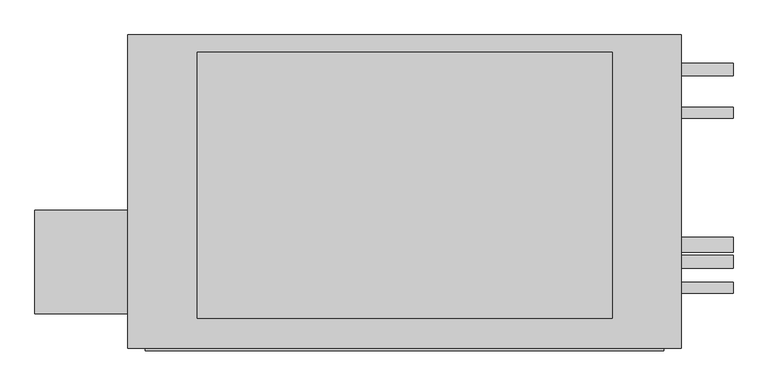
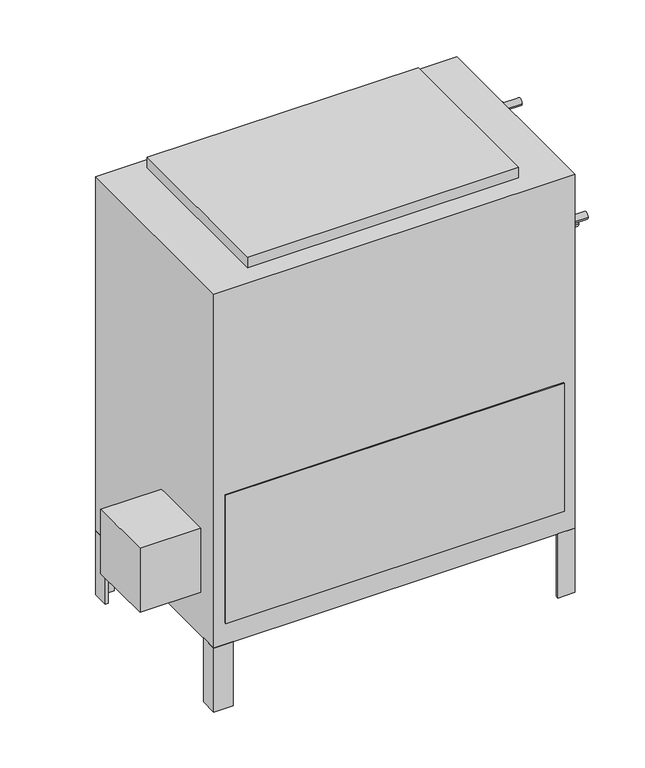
"""IFC4 building model written with IfcOpenShell, lengths in millimetres: proxy geometry, Concealed_High_Capacity_Vertical_Fan_Coil_Unit_-_42DDA_-_CARRIER_-_4-Pipe_RH_2022 : Size 10 - 277v/60Hz/1Ph - 4/2 Coil."""

from ifc_helpers import new_model, si_unit, point, frame, frame_2d, origin, origin_with_axes, place, context, project, spatial, polyline, circle_curve, trimmed, segment, composite_curve, outline, extrude, source, transform, mapped, element, save


def mechanical_equipment_e4368f68(model_context):
    return source(origin(), model_context, "Body", "SweptSolid", [
        extrude(outline(polyline([(-390.525, -417.5125), (-390.525, -265.1125), (-254.0, -265.1125), (-254.0, -417.5125), (-390.525, -417.5125)])), frame((0.0, 0.0, 101.6), z_axis=(0.0, 0.0, 1.0), x_axis=(1.0, 0.0, 0.0)), (0.0, 0.0, 1.0), 152.4),
        extrude(outline(polyline([(558.8, -46.0375), (552.45, -46.0375), (552.45, -14.2875), (520.7, -14.2875), (520.7, -7.9375), (558.8, -7.9375), (558.8, -46.0375)])), frame((0.0, 0.0, -152.4), z_axis=(0.0, 0.0, 1.0), x_axis=(1.0, 0.0, 0.0)), (0.0, 0.0, 1.0), 152.4),
        extrude(outline(polyline([(-215.9, -7.9375), (-215.9, -14.2875), (-247.65, -14.2875), (-247.65, -46.0375), (-254.0, -46.0375), (-254.0, -7.9375), (-215.9, -7.9375)])), frame((0.0, 0.0, -152.4), z_axis=(0.0, 0.0, 1.0), x_axis=(1.0, 0.0, 0.0)), (0.0, 0.0, 1.0), 152.4),
        extrude(outline(polyline([(520.7, -468.3125), (520.7, -461.9625), (552.45, -461.9625), (552.45, -430.2125), (558.8, -430.2125), (558.8, -468.3125), (520.7, -468.3125)])), frame((0.0, 0.0, -152.4), z_axis=(0.0, 0.0, 1.0), x_axis=(1.0, 0.0, 0.0)), (0.0, 0.0, 1.0), 152.4),
        extrude(outline(polyline([(-254.0, -428.1199163), (-247.65, -428.1199163), (-247.65, -461.9625), (-210.5318533, -461.9625), (-210.5318533, -468.3125), (-254.0, -468.3125), (-254.0, -428.1199163)])), frame((0.0, 0.0, -152.4), z_axis=(0.0, 0.0, 1.0), x_axis=(1.0, 0.0, 0.0)), (0.0, 0.0, 1.0), 152.4),
        extrude(outline(polyline([(457.2, -33.3375), (457.2, -423.8625), (-152.4, -423.8625), (-152.4, -33.3375), (457.2, -33.3375)])), frame((0.0, 0.0, 841.375), z_axis=(0.0, 0.0, 1.0), x_axis=(1.0, 0.0, 0.0)), (0.0, 0.0, 1.0), 25.4),
        extrude(outline(polyline([(533.4, -471.4875), (-228.6, -471.4875), (-228.6, -468.3125), (533.4, -468.3125), (533.4, -471.4875)])), frame((0.0, 0.0, 50.8), z_axis=(0.0, 0.0, 1.0), x_axis=(1.0, 0.0, 0.0)), (0.0, 0.0, 1.0), 304.8),
        extrude(outline(composite_curve([segment(trimmed(circle_curve(frame_2d((-122.2375, 777.875)), 7.9375), [point((-114.3, 777.875))], [point((-130.175, 777.875))], False, "CARTESIAN"), True, "CONTINUOUS"), segment(trimmed(circle_curve(frame_2d((-122.2375, 777.875)), 7.9375), [point((-130.175, 777.875))], [point((-114.3, 777.875))], False, "CARTESIAN"), True, "CONTINUOUS")], self_intersect=False)), frame((558.8, 0.0, 0.0), z_axis=(1.0, 0.0, 0.0), x_axis=(0.0, 1.0, 0.0)), (0.0, 0.0, 1.0), 76.2),
        extrude(outline(composite_curve([segment(trimmed(circle_curve(frame_2d((-379.4125, 663.575)), 7.9375), [point((-371.475, 663.575))], [point((-387.35, 663.575))], False, "CARTESIAN"), True, "CONTINUOUS"), segment(trimmed(circle_curve(frame_2d((-379.4125, 663.575)), 7.9375), [point((-387.35, 663.575))], [point((-371.475, 663.575))], False, "CARTESIAN"), True, "CONTINUOUS")], self_intersect=False)), frame((558.8, 0.0, 0.0), z_axis=(1.0, 0.0, 0.0), x_axis=(0.0, 1.0, 0.0)), (0.0, 0.0, 1.0), 76.2),
        extrude(outline(composite_curve([segment(trimmed(circle_curve(frame_2d((-58.7375, 727.075)), 9.525), [point((-49.2125, 727.075))], [point((-68.2625, 727.075))], False, "CARTESIAN"), True, "CONTINUOUS"), segment(trimmed(circle_curve(frame_2d((-58.7375, 727.075)), 9.525), [point((-68.2625, 727.075))], [point((-49.2125, 727.075))], False, "CARTESIAN"), True, "CONTINUOUS")], self_intersect=False)), frame((558.8, 0.0, 0.0), z_axis=(1.0, 0.0, 0.0), x_axis=(0.0, 1.0, 0.0)), (0.0, 0.0, 1.0), 76.2),
        extrude(outline(composite_curve([segment(trimmed(circle_curve(frame_2d((-341.3125, 625.475)), 9.525), [point((-331.7875, 625.475))], [point((-350.8375, 625.475))], False, "CARTESIAN"), True, "CONTINUOUS"), segment(trimmed(circle_curve(frame_2d((-341.3125, 625.475)), 9.525), [point((-350.8375, 625.475))], [point((-331.7875, 625.475))], False, "CARTESIAN"), True, "CONTINUOUS")], self_intersect=False)), frame((558.8, 0.0, 0.0), z_axis=(1.0, 0.0, 0.0), x_axis=(0.0, 1.0, 0.0)), (0.0, 0.0, 1.0), 76.2),
        extrude(outline(composite_curve([segment(trimmed(circle_curve(frame_2d((-315.9125, 536.575)), 11.1125), [point((-304.8, 536.575))], [point((-327.025, 536.575))], False, "CARTESIAN"), True, "CONTINUOUS"), segment(trimmed(circle_curve(frame_2d((-315.9125, 536.575)), 11.1125), [point((-327.025, 536.575))], [point((-304.8, 536.575))], False, "CARTESIAN"), True, "CONTINUOUS")], self_intersect=False)), frame((558.8, 0.0, 0.0), z_axis=(1.0, 0.0, 0.0), x_axis=(0.0, 1.0, 0.0)), (0.0, 0.0, 1.0), 76.2),
        extrude(outline(polyline([(558.8, -7.9375), (558.8, -468.3125), (-254.0, -468.3125), (-254.0, -7.9375), (558.8, -7.9375)])), origin_with_axes(), (0.0, 0.0, 1.0), 841.375),
    ])


if __name__ == "__main__":
    model = new_model("IFC4")
    model_context = context("Model", 3, world=origin())
    ifc_project = project(units=[si_unit("LENGTHUNIT", "METRE", prefix="MILLI")], contexts=[model_context])
    site = spatial("IfcSite", under=ifc_project)
    building = spatial("IfcBuilding", under=site)
    placement = place(None, origin())
    mechanical_equipment_shape = mechanical_equipment_e4368f68(model_context)
    element("IfcBuildingElementProxy", 1, Name="Concealed_High_Capacity_Vertical_Fan_Coil_Unit_-_42DDA_-_CARRIER_-_4-Pipe_RH_2022 : Size 10 - 277v/60Hz/1Ph - 4/2 Coil", ObjectType="Concealed_High_Capacity_Vertical_Fan_Coil_Unit_-_42DDA_-_CARRIER_-_4-Pipe_RH_2022 : Size 10 - 277v/60Hz/1Ph - 4/2 Coil", at=placement, inside=building, context=model_context, shape_type="MappedRepresentation", body=[
        mapped(mechanical_equipment_shape, transform((0.0, 0.0, 0.0), x_axis=(1.0, 0.0, 0.0), y_axis=(0.0, 1.0, 0.0), z_axis=(0.0, 0.0, 1.0))),
    ])
    save(model, "model.ifc")
